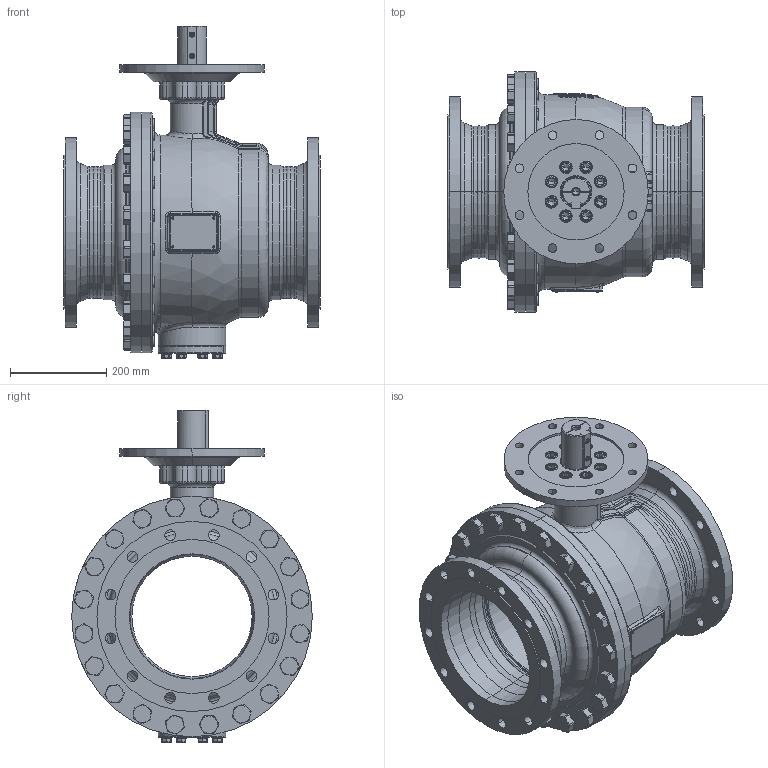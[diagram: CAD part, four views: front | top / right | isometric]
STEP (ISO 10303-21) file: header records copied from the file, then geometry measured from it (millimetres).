
FILE_DESCRIPTION((''),'2;1');
FILE_NAME('KHI-F_250_PN010-F25-P_SW0001','2026-02-05T14:27:32',('fischerkl'),('KLINGER'),'CREO PARAMETRIC BY PTC INC, 2023014','CREO PARAMETRIC BY PTC INC, 2023014','');
FILE_SCHEMA(('CONFIG_CONTROL_DESIGN'));
Products named in the file (1): KHI-F_250_PN010-F25-P_SW0001
Bounding box: 533 x 500 x 689.8 mm (x, y, z)
Volume: 21506581.4 mm3; surface area: 3369640 mm2
Topology: 1 solids, 4 shells, 3284 faces, 8297 edges, 5168 vertices
Faces by surface type: plane 1684, cylinder 770, cone 389, torus 314, bspline 97, sphere 30
Entity records: 134236 total; most frequent: CARTESIAN_POINT 56227, ORIENTED_EDGE 16534, DIRECTION 16036, EDGE_CURVE 8267, AXIS2_PLACEMENT_3D 6060, VERTEX_POINT 5168, VECTOR 3916, LINE 3916
